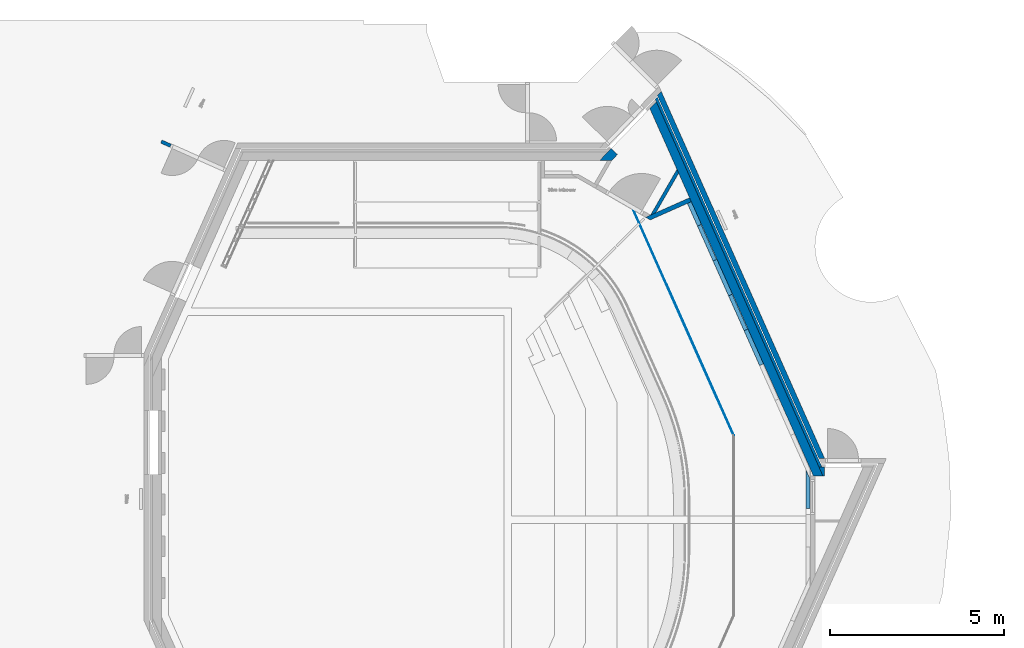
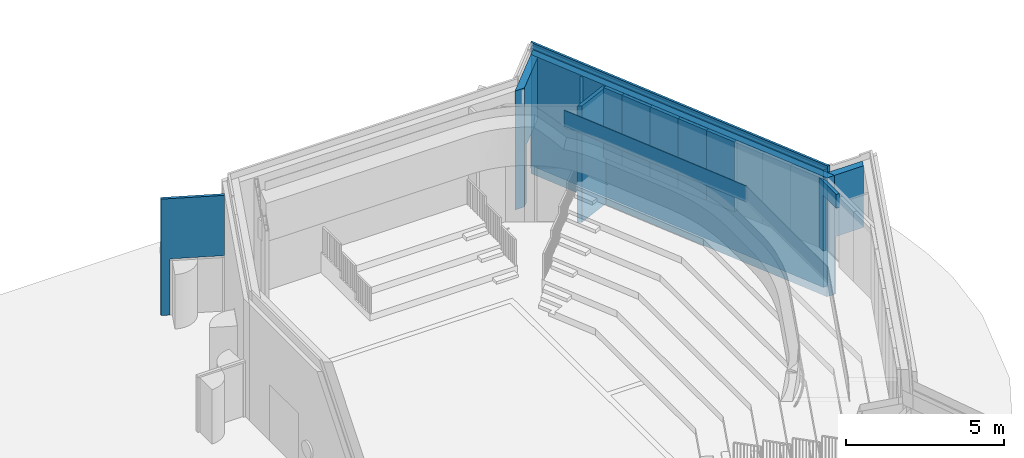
# One storey, part 11 of 19: 15 walls.
"""IFC2X3 building model written with IfcOpenShell, lengths in millimetres."""

from ifc_helpers import new_model, entity, si_unit, converted_unit, derived_unit, direction, frame, frame_2d, origin, place, context, subcontext, project, spatial, polyline, rectangle, outline, extrude, clip, halfspace, faceted_brep, material, layer, layer_set, layer_usage, type_object, element, save


model = new_model("IFC2X3")

# Units and contexts
model_context = context("Model", 3, precision=0.01, world=origin(), true_north=direction((6.123031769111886e-17, 1.0)))
body_context = subcontext(model_context, "Body", "Model", "MODEL_VIEW")
ifc_project = project(units=[si_unit("LENGTHUNIT", "METRE", prefix="MILLI"), si_unit("AREAUNIT", "SQUARE_METRE"), si_unit("VOLUMEUNIT", "CUBIC_METRE"), converted_unit("PLANEANGLEUNIT", "DEGREE", entity("IfcRatioMeasure", 0.017453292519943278), si_unit("PLANEANGLEUNIT", "RADIAN"), dimensions=[0, 0, 0, 0, 0, 0, 0]), si_unit("MASSUNIT", "GRAM", prefix="KILO"), derived_unit("MASSDENSITYUNIT", [(si_unit("MASSUNIT", "GRAM", prefix="KILO"), 1), (si_unit("LENGTHUNIT", "METRE"), -3)]), derived_unit("MOMENTOFINERTIAUNIT", [(si_unit("LENGTHUNIT", "METRE"), 4)]), si_unit("TIMEUNIT", "SECOND"), si_unit("FREQUENCYUNIT", "HERTZ"), si_unit("THERMODYNAMICTEMPERATUREUNIT", "DEGREE_CELSIUS"), derived_unit("THERMALTRANSMITTANCEUNIT", [(si_unit("MASSUNIT", "GRAM", prefix="KILO"), 1), (si_unit("THERMODYNAMICTEMPERATUREUNIT", "KELVIN"), -1), (si_unit("TIMEUNIT", "SECOND"), -3)]), derived_unit("VOLUMETRICFLOWRATEUNIT", [(si_unit("LENGTHUNIT", "METRE"), 3), (si_unit("TIMEUNIT", "SECOND"), -1)]), derived_unit("MASSFLOWRATEUNIT", [(si_unit("MASSUNIT", "GRAM", prefix="KILO"), 1), (si_unit("TIMEUNIT", "SECOND"), -1)]), derived_unit("ROTATIONALFREQUENCYUNIT", [(si_unit("TIMEUNIT", "SECOND"), -1)]), si_unit("ELECTRICCURRENTUNIT", "AMPERE"), si_unit("ELECTRICVOLTAGEUNIT", "VOLT"), si_unit("POWERUNIT", "WATT"), si_unit("FORCEUNIT", "NEWTON", prefix="KILO"), si_unit("ILLUMINANCEUNIT", "LUX"), si_unit("LUMINOUSFLUXUNIT", "LUMEN"), si_unit("LUMINOUSINTENSITYUNIT", "CANDELA"), derived_unit("USERDEFINED", [(si_unit("MASSUNIT", "GRAM", prefix="KILO"), -1), (si_unit("LENGTHUNIT", "METRE"), -2), (si_unit("TIMEUNIT", "SECOND"), 3), (si_unit("LUMINOUSFLUXUNIT", "LUMEN"), 1)]), derived_unit("SOUNDPOWERUNIT", [(si_unit("MASSUNIT", "GRAM", prefix="KILO"), 1), (si_unit("LENGTHUNIT", "METRE"), 2), (si_unit("TIMEUNIT", "SECOND"), -3)]), derived_unit("SOUNDPRESSUREUNIT", [(si_unit("MASSUNIT", "GRAM", prefix="KILO"), 1), (si_unit("LENGTHUNIT", "METRE"), -1), (si_unit("TIMEUNIT", "SECOND"), -2)]), derived_unit("LINEARVELOCITYUNIT", [(si_unit("LENGTHUNIT", "METRE"), 1), (si_unit("TIMEUNIT", "SECOND"), -1)]), si_unit("PRESSUREUNIT", "PASCAL"), derived_unit("USERDEFINED", [(si_unit("LENGTHUNIT", "METRE"), -2), (si_unit("MASSUNIT", "GRAM", prefix="KILO"), 1), (si_unit("TIMEUNIT", "SECOND"), -2)]), derived_unit("LINEARFORCEUNIT", [(si_unit("MASSUNIT", "GRAM", prefix="KILO"), 1), (si_unit("LENGTHUNIT", "METRE"), 1), (si_unit("TIMEUNIT", "SECOND"), -2), (si_unit("LENGTHUNIT", "METRE"), -1)]), derived_unit("PLANARFORCEUNIT", [(si_unit("MASSUNIT", "GRAM", prefix="KILO"), 1), (si_unit("LENGTHUNIT", "METRE"), 1), (si_unit("TIMEUNIT", "SECOND"), -2), (si_unit("LENGTHUNIT", "METRE"), -2)])], contexts=[model_context])

# Site, building, storey
site_placement = place(None, frame((-10000.0, -10000.0, 0.0)))
site = spatial("IfcSite", under=ifc_project, at=site_placement, Name="Default", CompositionType="ELEMENT")
building_placement = place(site_placement, origin())
building = spatial("IfcBuilding", under=site, at=building_placement, CompositionType="ELEMENT")
storey_placement = place(building_placement, frame((0.0, 0.0, 4200.0)))
storey = spatial("IfcBuildingStorey", under=building, at=storey_placement, Name="01 1e verdieping", CompositionType="ELEMENT", Elevation=4200.000000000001)

# Walls
ifc_material_1 = material(Name="NLRS_beton ihwg")
ifc_layer_1 = layer(ifc_material_1, 250.00000000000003)
ifc_layer_set_1 = layer_set([ifc_layer_1], Name="Basic Wall:NLRS_21_WA_beton 250mm_ags")
ifc_layer_usage_1 = layer_usage(ifc_layer_set_1, "AXIS2", "NEGATIVE", 125.00000000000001)
wall_type_1 = type_object("IfcWallType", Name="Basic Wall:NLRS_21_WA_beton 250mm_ags", PredefinedType="STANDARD", material=ifc_layer_set_1)
wall_1_placement = place(storey_placement, frame((39918.91729617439, 50794.82510490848, -50.0), z_axis=(0.0, 0.0, 1.0), x_axis=(0.40673664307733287, -0.9135454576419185, 0.0)))
element("IfcWallStandardCase", 1, at=wall_1_placement, inside=storey, type_object=wall_type_1, material=ifc_layer_usage_1, Name="Basic Wall:NLRS_21_WA_beton 250mm_ags", ObjectType="Basic Wall:NLRS_21_WA_beton 250mm_ags", context=body_context, shape_type="SweptSolid", body=[
    extrude(outline(polyline([(11686.34128409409, -125.0), (11797.64845542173, 125.0), (11523.989385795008, 125.0), (0.0, 125.0), (101.12221718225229, -125.0), (11686.34128409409, -125.0)])), origin(), (0.0, 0.0, 1.0), 4599.999999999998),
])
wall_2_placement = place(storey_placement, frame((39935.80622246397, 50564.806749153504, -50.0), z_axis=(0.0, 0.0, 1.0), x_axis=(-0.6943722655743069, -0.7196159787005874, 0.0)))
element("IfcWall", 2, at=wall_2_placement, inside=storey, type_object=wall_type_1, Name="Basic Wall:NLRS_21_WA_beton 250mm_ags", ObjectType="Basic Wall:NLRS_21_WA_beton 250mm_ags", context=body_context, shape_type="Brep", body=[
    faceted_brep([(2083.8938082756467, -125.0, 4600.0), (1736.4862917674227, -125.0, 4600.0), (0.0, -125.0, 4600.0), (0.0, -125.0, 2220.0), (1600.8832312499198, -125.0, 2220.0), (1600.8832312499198, -125.0, 0.0), (1736.486291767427, -125.0, 0.0), (2083.8938082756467, -125.0, 0.0), (101.12221718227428, 125.0, 4600.0), (1842.6636639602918, 125.0, 4600.0), (1842.6636639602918, 125.0, 0.0), (1600.8832312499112, 125.0, 0.0), (1600.8832312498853, 125.0, 2220.0), (101.12221718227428, 125.0, 2220.0)], [[[0, 1, 2, 3, 4, 5, 6, 7]], [[8, 9, 10, 11, 12, 13]], [[10, 7, 6, 5, 11]], [[2, 1, 0, 9, 8]], [[0, 7, 10, 9]], [[2, 8, 13, 3]], [[12, 4, 3, 13]], [[4, 12, 11, 5]]]),
])
wall_3_placement = place(storey_placement, frame((44720.339236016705, 40192.97902798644, -50.0)))
element("IfcWall", 3, at=wall_3_placement, inside=storey, type_object=wall_type_1, Name="Basic Wall:NLRS_21_WA_beton 250mm_ags", ObjectType="Basic Wall:NLRS_21_WA_beton 250mm_ags", context=body_context, shape_type="Brep", body=[
    faceted_brep([(1168.2343786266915, -125.0, 4600.0), (111.30717132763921, -125.0, 4600.0), (111.30717132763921, -125.0, 0.0), (158.23437862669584, -125.0, 0.0), (158.23437862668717, -125.0, 2220.0), (1168.2343786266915, -125.0, 2220.0), (0.0, 125.0, 4600.0), (1279.5415499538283, 125.0, 4600.0), (1279.5415499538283, 125.0, 2220.0), (158.23437862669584, 125.0, 2220.0), (158.23437862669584, 125.0, 0.0), (0.0, 125.0, 0.0)], [[[0, 1, 2, 3, 4, 5]], [[6, 7, 8, 9, 10, 11]], [[2, 11, 10, 3]], [[1, 0, 7, 6]], [[7, 0, 5, 8]], [[2, 1, 6, 11]], [[4, 9, 8, 5]], [[9, 4, 3, 10]]]),
])
ifc_material_2 = material(Name="NLRS_kalkzandsteen")
ifc_layer_2 = layer(ifc_material_2, 150.0)
ifc_layer_set_2 = layer_set([ifc_layer_2], Name="Basic Wall:NLRS_22_WA_kalkzandsteen 150mm_ags")
ifc_layer_usage_2 = layer_usage(ifc_layer_set_2, "AXIS2", "NEGATIVE", 75.0)
wall_type_2 = type_object("IfcWallType", Name="Basic Wall:NLRS_22_WA_kalkzandsteen 150mm_ags", PredefinedType="STANDARD", material=ifc_layer_set_2)
wall_4_placement = place(storey_placement, frame((40108.01076136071, 51107.692229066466, -50.0), z_axis=(0.0, 0.0, 1.0), x_axis=(0.4067366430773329, -0.9135454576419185, 0.0)))
element("IfcWallStandardCase", 4, at=wall_4_placement, inside=storey, type_object=wall_type_2, material=ifc_layer_usage_2, Name="Basic Wall:NLRS_22_WA_kalkzandsteen 150mm_ags", ObjectType="Basic Wall:NLRS_22_WA_kalkzandsteen 150mm_ags", context=body_context, shape_type="SweptSolid", body=[
    extrude(outline(polyline([(11503.760283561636, -75.0), (11570.544586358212, 75.0), (0.0, 75.0), (60.67333030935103, -75.0), (11503.760283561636, -75.0)])), origin(), (0.0, 0.0, 1.0), 4549.999999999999),
])
ifc_material_3 = material(Name="NLRS_MDF")
ifc_layer_3 = layer(ifc_material_3, 12.5)
ifc_material_4 = material(Name="NLRS_gipsplaat")
ifc_layer_4 = layer(ifc_material_4, 12.5)
ifc_material_5 = material(Name="NLRS_aluminium C-profielen met isolatie")
ifc_layer_5 = layer(ifc_material_5, 75.0)
ifc_layer_6 = layer(ifc_material_4, 12.5)
ifc_layer_7 = layer(ifc_material_4, 12.5)
ifc_layer_set_3 = layer_set([ifc_layer_3, ifc_layer_4, ifc_layer_5, ifc_layer_6, ifc_layer_7], Name="Basic Wall:NLRS_22_WA_ms-wand mdf gips iso gips gips 125mm 25-75-25_ags")
ifc_layer_usage_3 = layer_usage(ifc_layer_set_3, "AXIS2", "NEGATIVE", 62.50000000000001)
wall_type_3 = type_object("IfcWallType", Name="Basic Wall:NLRS_22_WA_ms-wand mdf gips iso gips gips 125mm 25-75-25_ags", PredefinedType="STANDARD", material=ifc_layer_set_3)
wall_5_placement = place(storey_placement, frame((41016.35473464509, 48022.77336376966, 0.0), z_axis=(0.0, 0.0, 1.0), x_axis=(-0.9135931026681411, -0.40662961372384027, 0.0)))
element("IfcWallStandardCase", 5, at=wall_5_placement, inside=storey, type_object=wall_type_3, material=ifc_layer_usage_3, Name="Basic Wall:NLRS_22_WA_ms-wand mdf gips iso gips gips 125mm 25-75-25_ags", ObjectType="Basic Wall:NLRS_22_WA_ms-wand mdf gips iso gips gips 125mm 25-75-25_ags", context=body_context, shape_type="SweptSolid", body=[
    extrude(outline(polyline([(1386.2243563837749, -62.49999999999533), (1295.3841638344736, 62.49999999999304), (0.0, 62.50000000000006), (0.0, -62.500000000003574), (1061.5999717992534, -62.500000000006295), (1231.7027055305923, -62.49999999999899), (1386.2243563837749, -62.49999999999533)])), origin(), (0.0, 0.0, 1.0), 4499.999999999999),
])
ifc_layer_8 = layer(ifc_material_4, 12.5)
ifc_layer_9 = layer(ifc_material_4, 12.5)
ifc_layer_10 = layer(ifc_material_5, 75.0)
ifc_layer_set_4 = layer_set([ifc_layer_8, ifc_layer_9, ifc_layer_10], Name="Basic Wall:NLRS_22_WA_ms-wand gips iso 100mm 25-75_ags")
ifc_layer_usage_4 = layer_usage(ifc_layer_set_4, "AXIS2", "NEGATIVE", 50.0)
wall_type_4 = type_object("IfcWallType", Name="Basic Wall:NLRS_22_WA_ms-wand gips iso 100mm 25-75_ags", PredefinedType="STANDARD", material=ifc_layer_set_4)
wall_6_placement = place(storey_placement, frame((39908.966557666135, 47554.0261373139, 0.0), z_axis=(0.0, 0.0, 1.0), x_axis=(0.4999999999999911, 0.8660254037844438, 0.0)))
element("IfcWallStandardCase", 6, at=wall_6_placement, inside=storey, type_object=wall_type_4, material=ifc_layer_usage_4, Name="Basic Wall:NLRS_22_WA_ms-wand gips iso 100mm 25-75_ags", ObjectType="Basic Wall:NLRS_22_WA_ms-wand gips iso 100mm 25-75_ags", context=body_context, shape_type="SweptSolid", body=[
    extrude(outline(polyline([(1449.725890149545, -50.0), (1522.3801429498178, 50.0), (0.0, 50.0), (137.60428780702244, -50.0), (1449.725890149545, -50.0)])), origin(), (0.0, 0.0, 1.0), 4499.999999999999),
])
ifc_material_6 = material(Name="NLRS_isolatie")
ifc_layer_11 = layer(ifc_material_6, 80.0)
ifc_layer_set_5 = layer_set([ifc_layer_11], Name="Basic Wall:NLRS_21_WA_isolatie 80mm_ags")
ifc_layer_usage_5 = layer_usage(ifc_layer_set_5, "AXIS2", "NEGATIVE", 40.0)
wall_type_5 = type_object("IfcWallType", Name="Basic Wall:NLRS_21_WA_isolatie 80mm_ags", PredefinedType="STANDARD", material=ifc_layer_set_5)
wall_7_placement = place(storey_placement, frame((44771.368319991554, 40301.70956226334, -50.0), z_axis=(0.0, 0.0, 1.0), x_axis=(-0.4067366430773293, 0.9135454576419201, 0.0)))
element("IfcWallStandardCase", 7, at=wall_7_placement, inside=storey, type_object=wall_type_5, material=ifc_layer_usage_5, Name="Basic Wall:NLRS_21_WA_isolatie 80mm_ags", ObjectType="Basic Wall:NLRS_21_WA_isolatie 80mm_ags", context=body_context, shape_type="Clipping", body=[
    clip(extrude(outline(polyline([(11678.26344108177, -40.0), (11645.904331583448, 40.0), (11559.6076806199, 40.0), (35.61829482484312, 40.0), (0.0, -40.0), (87.57090228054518, -40.0), (11678.26344108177, -40.0)])), origin(), (0.0, 0.0, 1.0), 4850.0), halfspace(frame((0.0, 0.0, -50.0)), True)),
])
ifc_layer_12 = layer(ifc_material_3, 12.5)
ifc_layer_13 = layer(ifc_material_4, 12.5)
ifc_layer_14 = layer(ifc_material_5, 100.0)
ifc_layer_set_6 = layer_set([ifc_layer_12, ifc_layer_13, ifc_layer_14], Name="Basic Wall:NLRS_22_WA_ms-wand mdf gips iso 125mm 25-100_ags")
ifc_layer_usage_6 = layer_usage(ifc_layer_set_6, "AXIS2", "POSITIVE", -62.50000000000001)
wall_type_6 = type_object("IfcWallType", Name="Basic Wall:NLRS_22_WA_ms-wand mdf gips iso 125mm 25-100_ags", PredefinedType="STANDARD", material=ifc_layer_set_6)
wall_8_placement = place(storey_placement, frame((40984.61504916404, 47940.24251141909, 1845.0), z_axis=(0.0, 0.0, 1.0), x_axis=(0.40673664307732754, -0.913545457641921, 0.0)))
element("IfcWallStandardCase", 8, at=wall_8_placement, inside=storey, type_object=wall_type_6, material=ifc_layer_usage_6, Name="Basic Wall:NLRS_22_WA_ms-wand mdf gips iso 125mm 25-100_ags", ObjectType="Basic Wall:NLRS_22_WA_ms-wand mdf gips iso 125mm 25-100_ags", context=body_context, shape_type="SweptSolid", body=[
    extrude(rectangle(XDim=714.4903101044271, YDim=124.99999999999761, at=frame_2d((357.24515505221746, -3.0233593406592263e-12), x_axis=(-1.0, 0.0))), origin(), (0.0, 0.0, 1.0), 2704.999999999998),
])
ifc_layer_usage_7 = layer_usage(ifc_layer_set_6, "AXIS2", "POSITIVE", -62.50000000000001)
wall_9_placement = place(storey_placement, frame((42617.455361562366, 44272.8231238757, 1845.0), z_axis=(0.0, 0.0, 1.0), x_axis=(0.40673664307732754, -0.913545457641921, 0.0)))
element("IfcWallStandardCase", 9, at=wall_9_placement, inside=storey, type_object=wall_type_6, material=ifc_layer_usage_7, Name="Basic Wall:NLRS_22_WA_ms-wand mdf gips iso 125mm 25-100_ags", ObjectType="Basic Wall:NLRS_22_WA_ms-wand mdf gips iso 125mm 25-100_ags", context=body_context, shape_type="SweptSolid", body=[
    extrude(rectangle(XDim=1099.9999999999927, YDim=124.99999999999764, at=frame_2d((550.0000000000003, -3.581135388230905e-12), x_axis=(-1.0, 0.0))), origin(), (0.0, 0.0, 1.0), 2704.999999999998),
])
ifc_layer_usage_8 = layer_usage(ifc_layer_set_6, "AXIS2", "POSITIVE", -62.50000000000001)
wall_10_placement = place(storey_placement, frame((41722.634746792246, 46282.62313068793, 1845.0), z_axis=(0.0, 0.0, 1.0), x_axis=(0.40673664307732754, -0.913545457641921, 0.0)))
element("IfcWallStandardCase", 10, at=wall_10_placement, inside=storey, type_object=wall_type_6, material=ifc_layer_usage_8, Name="Basic Wall:NLRS_22_WA_ms-wand mdf gips iso 125mm 25-100_ags", ObjectType="Basic Wall:NLRS_22_WA_ms-wand mdf gips iso 125mm 25-100_ags", context=body_context, shape_type="SweptSolid", body=[
    extrude(rectangle(XDim=1100.000000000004, YDim=124.99999999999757, at=frame_2d((550.000000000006, -1.3820056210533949e-12), x_axis=(-1.0, 0.0))), origin(), (0.0, 0.0, 1.0), 2704.999999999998),
])
ifc_material_7 = material(Name="NLRS_hout")
ifc_layer_15 = layer(ifc_material_7, 39.0)
ifc_material_8 = material(Name="NLRS_vilt")
ifc_layer_16 = layer(ifc_material_8, 1.0)
ifc_layer_17 = layer(ifc_material_5, 75.0)
ifc_layer_set_7 = layer_set([ifc_layer_15, ifc_layer_16, ifc_layer_17], Name="Basic Wall:NLRS_22_WA_akoestische voorzetwand 115mm 39-1-75_ags")
wall_type_7 = type_object("IfcWallType", Name="Basic Wall:NLRS_22_WA_akoestische voorzetwand 115mm 39-1-75_ags", PredefinedType="STANDARD", material=ifc_layer_set_7)
wall_11_placement = place(storey_placement, frame((44407.49999999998, 40227.802070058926, 1845.0), z_axis=(0.0, 0.0, 1.0), x_axis=(0.0, -1.0, 0.0)))
element("IfcWall", 11, at=wall_11_placement, inside=storey, type_object=wall_type_7, Name="Basic Wall:NLRS_22_WA_akoestische voorzetwand 115mm 39-1-75_ags", ObjectType="Basic Wall:NLRS_22_WA_akoestische voorzetwand 115mm 39-1-75_ags", context=body_context, shape_type="Brep", body=[
    faceted_brep([(1100.0, -57.499999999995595, 2705.0), (0.0, -57.499999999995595, 2705.0), (0.0, -57.499999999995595, 0.0), (259.82304207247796, -57.499999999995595, 0.0), (259.82304207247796, -57.499999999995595, 2170.0), (1100.0, -57.499999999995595, 2170.0), (258.2942289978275, 57.500000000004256, 2705.0), (1100.0, 57.500000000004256, 2705.0), (1100.0, 57.500000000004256, 2170.0), (259.82304207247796, 57.500000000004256, 2170.0), (259.82304207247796, 57.500000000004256, 0.0), (258.2942289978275, 57.500000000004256, 0.0)], [[[0, 1, 2, 3, 4, 5]], [[6, 7, 8, 9, 10, 11]], [[2, 11, 10, 3]], [[7, 0, 5, 8]], [[1, 0, 7, 6]], [[2, 1, 6, 11]], [[4, 9, 8, 5]], [[9, 4, 3, 10]]]),
])
ifc_layer_usage_9 = layer_usage(ifc_layer_set_7, "AXIS2", "POSITIVE", -57.50000000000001)
wall_12_placement = place(storey_placement, frame((42165.47732688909, 45275.68944406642, 1845.0), z_axis=(0.0, 0.0, 1.0), x_axis=(0.40673664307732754, -0.913545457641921, 0.0)))
element("IfcWallStandardCase", 12, at=wall_12_placement, inside=storey, type_object=wall_type_7, material=ifc_layer_usage_9, Name="Basic Wall:NLRS_22_WA_akoestische voorzetwand 115mm 39-1-75_ags", ObjectType="Basic Wall:NLRS_22_WA_akoestische voorzetwand 115mm 39-1-75_ags", context=body_context, shape_type="SweptSolid", body=[
    extrude(rectangle(XDim=1100.000000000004, YDim=114.99999999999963, at=frame_2d((549.9999999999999, 6.0964566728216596e-12), x_axis=(-1.0, 0.0))), origin(), (0.0, 0.0, 1.0), 2704.999999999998),
])
ifc_layer_usage_10 = layer_usage(ifc_layer_set_7, "AXIS2", "POSITIVE", -57.50000000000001)
wall_13_placement = place(storey_placement, frame((41270.65671211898, 47285.48945087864, 1845.0), z_axis=(0.0, 0.0, 1.0), x_axis=(0.40673664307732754, -0.913545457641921, 0.0)))
element("IfcWallStandardCase", 13, at=wall_13_placement, inside=storey, type_object=wall_type_7, material=ifc_layer_usage_10, Name="Basic Wall:NLRS_22_WA_akoestische voorzetwand 115mm 39-1-75_ags", ObjectType="Basic Wall:NLRS_22_WA_akoestische voorzetwand 115mm 39-1-75_ags", context=body_context, shape_type="SweptSolid", body=[
    extrude(rectangle(XDim=1099.9999999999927, YDim=114.99999999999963, at=frame_2d((549.9999999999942, 3.8973269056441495e-12), x_axis=(-1.0, 0.0))), origin(), (0.0, 0.0, 1.0), 2704.999999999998),
])
ifc_layer_18 = layer(ifc_material_4, 12.5)
ifc_layer_19 = layer(ifc_material_4, 12.5)
ifc_layer_20 = layer(ifc_material_5, 50.0)
ifc_layer_21 = layer(ifc_material_4, 12.5)
ifc_layer_22 = layer(ifc_material_4, 12.5)
ifc_layer_set_8 = layer_set([ifc_layer_18, ifc_layer_19, ifc_layer_20, ifc_layer_21, ifc_layer_22], Name="Basic Wall:NLRS_22_WA_ms-wand gips iso gips 100mm 25-50-25_ags")
wall_type_8 = type_object("IfcWallType", Name="Basic Wall:NLRS_22_WA_ms-wand gips iso gips 100mm 25-50-25_ags", PredefinedType="STANDARD", material=ifc_layer_set_8)
wall_14_placement = place(storey_placement, frame((27625.413582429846, 48871.8275917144, 0.0), z_axis=(0.0, 0.0, 1.0), x_axis=(-0.9135454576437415, 0.4067366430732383, 0.0)))
element("IfcWall", 14, at=wall_14_placement, inside=storey, type_object=wall_type_8, Name="Basic Wall:NLRS_22_WA_ms-wand gips iso gips 100mm 25-50-25_ags", ObjectType="Basic Wall:NLRS_22_WA_ms-wand gips iso gips 100mm 25-50-25_ags", context=body_context, shape_type="Brep", body=[
    faceted_brep([(2030.0, -50.0, 0.0), (2030.0, -50.0, 4500.0), (0.0, -50.0, 4500.0), (0.0, -50.0, 2170.0), (1734.64512718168, -50.0, 2170.0), (1734.6451271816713, -50.0, 0.0), (2030.0, 50.0, 4500.0), (2030.0, 50.0, 0.0), (1734.645127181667, 50.0, 0.0), (1734.6451271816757, 50.0, 2170.0), (0.0, 50.0, 2170.0), (0.0, 50.0, 4500.0)], [[[0, 1, 2, 3, 4, 5]], [[6, 7, 8, 9, 10, 11]], [[7, 0, 5, 8]], [[1, 0, 7, 6]], [[2, 1, 6, 11]], [[2, 11, 10, 3]], [[4, 9, 8, 5]], [[9, 4, 3, 10]]]),
])
ifc_material_9 = material(Name="36_APX_multiplex")
ifc_layer_23 = layer(ifc_material_9, 25.0)
ifc_layer_set_9 = layer_set([ifc_layer_23], Name="Basic Wall:NLRS_42_WA_multiplex 25mm_ags")
ifc_layer_usage_11 = layer_usage(ifc_layer_set_9, "AXIS2", "NEGATIVE", 12.5)
wall_type_9 = type_object("IfcWallType", Name="Basic Wall:NLRS_42_WA_multiplex 25mm_ags", PredefinedType="STANDARD", material=ifc_layer_set_9)
wall_15_placement = place(storey_placement, frame((39376.26877895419, 47717.241775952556, 3725.0), z_axis=(0.0, 0.0, 1.0), x_axis=(0.40673664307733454, -0.9135454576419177, 0.0)))
element("IfcWallStandardCase", 15, at=wall_15_placement, inside=storey, type_object=wall_type_9, material=ifc_layer_usage_11, Name="Basic Wall:NLRS_42_WA_multiplex 25mm_ags", ObjectType="Basic Wall:NLRS_42_WA_multiplex 25mm_ags", context=body_context, shape_type="SweptSolid", body=[
    extrude(outline(polyline([(7154.874784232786, -12.500000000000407), (7098.723864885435, 12.499999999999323), (0.0, 12.499999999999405), (0.0, -12.499999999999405), (7093.4099508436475, -12.499999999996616), (7154.874784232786, -12.500000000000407)])), origin(), (0.0, 0.0, 1.0), 619.9999999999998),
])

save(model, "model.ifc")
